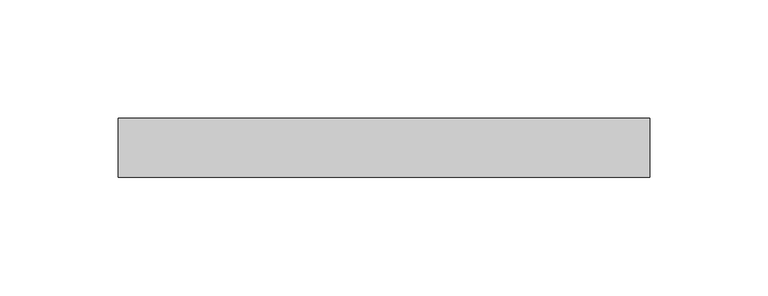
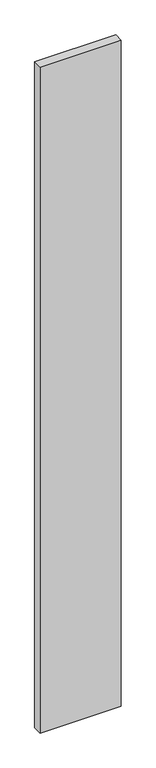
"""IFC4 building model written with IfcOpenShell, lengths in millimetres: plate geometry, Системная панель : С остеклением."""

from ifc_helpers import new_model, si_unit, origin, origin_with_axes, place, context, project, spatial, polyline, outline, extrude, source, transform, mapped, element, save


def plate_d5a73d08(model_context):
    return source(origin(), model_context, "Body", "SweptSolid", [
        extrude(outline(polyline([(112.625, 24.5), (-112.625, 24.5), (-112.625, 49.5), (112.625, 49.5), (112.625, 24.5)])), origin_with_axes(), (0.0, 0.0, 1.0), 1950.0),
    ])


if __name__ == "__main__":
    model = new_model("IFC4")
    model_context = context("Model", 3, world=origin())
    ifc_project = project(units=[si_unit("LENGTHUNIT", "METRE", prefix="MILLI")], contexts=[model_context])
    site = spatial("IfcSite", under=ifc_project)
    building = spatial("IfcBuilding", under=site)
    placement = place(None, origin())
    plate_shape = plate_d5a73d08(model_context)
    element("IfcPlate", 1, ObjectType="Системная панель : С остеклением", at=placement, inside=building, context=model_context, shape_type="MappedRepresentation", body=[
        mapped(plate_shape, transform((0.0, 0.0, 0.0), x_axis=(1.0, 0.0, 0.0), y_axis=(0.0, 1.0, 0.0), z_axis=(0.0, 0.0, 1.0))),
    ])
    save(model, "model.ifc")
